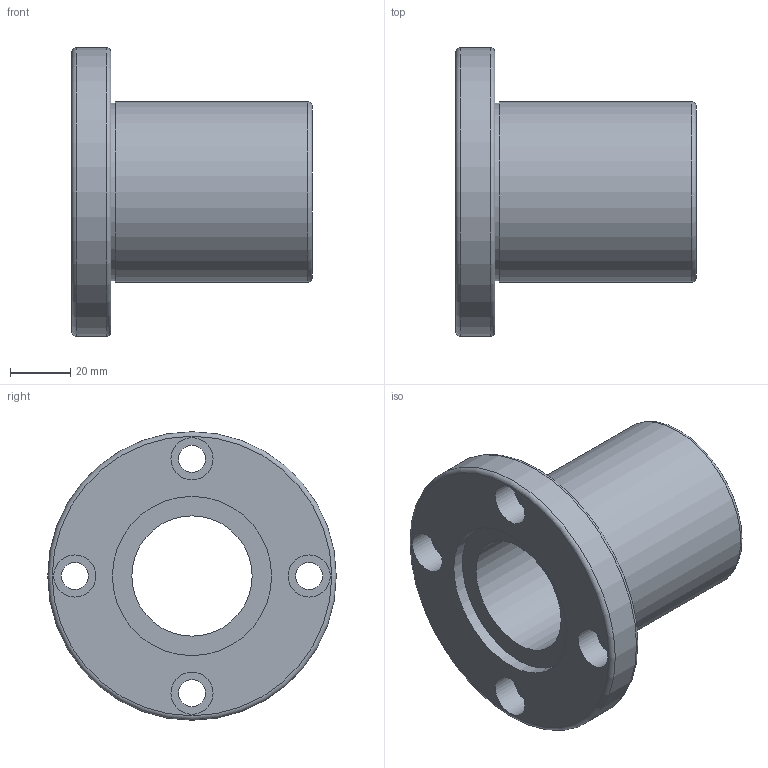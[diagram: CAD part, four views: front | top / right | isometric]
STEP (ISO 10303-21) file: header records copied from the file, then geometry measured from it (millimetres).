
FILE_DESCRIPTION( ( 'Unknown' ), '1' );
FILE_NAME( 'D:/累诀/己绕皋墨飘肺葱胶/11-04-06_档搁累己/01_府聪绢何教/LMF/LMF 40.stp', 'Unknown', ( 'Unknown' ), ( 'Unknown' ), 'PSStep 11.0', 'Unknown', ' ' );
FILE_SCHEMA( ( 'AUTOMOTIVE_DESIGN { 1 0 10303 214 1 1 1 1 }' ) );
Length unit declared in the file: millimetre
Products named in the file (1): 1
Bounding box: 80 x 96 x 96 mm (x, y, z)
Volume: 168473.1 mm3; surface area: 40064.1 mm2
Topology: 1 solids, 1 shells, 27 faces, 52 edges, 35 vertices
Faces by surface type: cylinder 14, plane 10, torus 3
Full cylindrical faces by diameter (mm): 9 x4, 14 x4, 40 x1, 53 x2, 59 x1, 60 x1, 96 x1
Entity records: 836 total; most frequent: DIRECTION 118, CARTESIAN_POINT 90, EDGE_LOOP 62, ORIENTED_EDGE 62, AXIS2_PLACEMENT_3D 59, FACE_OUTER_BOUND 44, EDGE_CURVE 31, VERTEX_POINT 31
